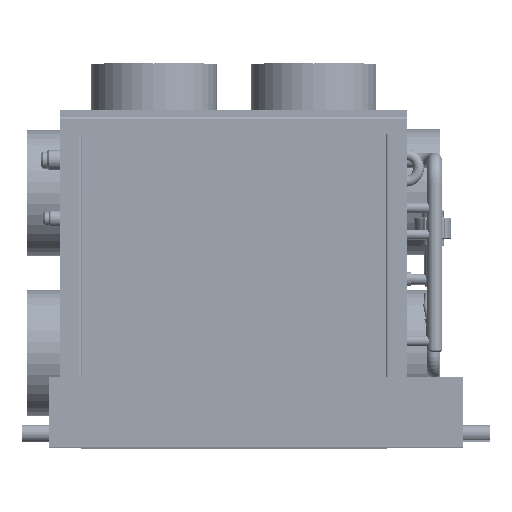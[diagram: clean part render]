
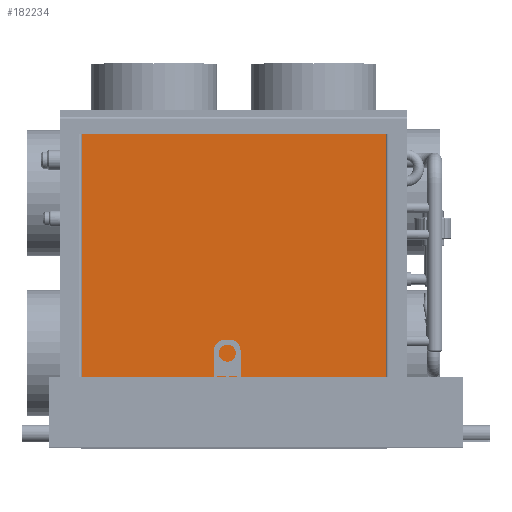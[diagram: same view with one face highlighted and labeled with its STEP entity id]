
A CAD part, top view. The second image highlights one B-rep face of the part: STEP entity #182234.
In plain terms, the highlighted planar face has unit normal (0, 0, 1) as drawn and (-1, 0, 0) by its records, which use the part's own axes.
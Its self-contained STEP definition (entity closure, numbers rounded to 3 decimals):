
#15830=FACE_OUTER_BOUND('',#26754,.T.);
#26754=EDGE_LOOP('',(#161679,#161680,#161681,#161682));
#50284=LINE('',#327582,#69904);
#50286=LINE('',#327586,#69906);
#50287=LINE('',#327588,#69907);
#50288=LINE('',#327589,#69908);
#69904=VECTOR('',#239657,1000.);
#69906=VECTOR('',#239661,1000.);
#69907=VECTOR('',#239662,1000.);
#69908=VECTOR('',#239663,1000.);
#86570=VERTEX_POINT('',#327579);
#86571=VERTEX_POINT('',#327581);
#86572=VERTEX_POINT('',#327585);
#86573=VERTEX_POINT('',#327587);
#111846=EDGE_CURVE('',#86571,#86570,#50284,.T.);
#111848=EDGE_CURVE('',#86570,#86572,#50286,.T.);
#111849=EDGE_CURVE('',#86573,#86572,#50287,.T.);
#111850=EDGE_CURVE('',#86571,#86573,#50288,.T.);
#161679=ORIENTED_EDGE('',*,*,#111848,.T.);
#161680=ORIENTED_EDGE('',*,*,#111849,.F.);
#161681=ORIENTED_EDGE('',*,*,#111850,.F.);
#161682=ORIENTED_EDGE('',*,*,#111846,.T.);
#172980=PLANE('',#195456);
#182234=ADVANCED_FACE('',(#15830),#172980,.F.);
#195456=AXIS2_PLACEMENT_3D('',#327584,#239659,#239660);
#239657=DIRECTION('',(0.,0.,-1.));
#239659=DIRECTION('center_axis',(1.,0.,0.));
#239660=DIRECTION('ref_axis',(0.,1.,0.));
#239661=DIRECTION('',(0.,-1.,0.));
#239662=DIRECTION('',(0.,0.,-1.));
#239663=DIRECTION('',(0.,-1.,0.));
#327579=CARTESIAN_POINT('',(-43.3,137.5,-142.5));
#327581=CARTESIAN_POINT('',(-43.3,137.5,142.5));
#327582=CARTESIAN_POINT('',(-43.3,137.5,142.5));
#327584=CARTESIAN_POINT('Origin',(-43.3,137.5,142.5));
#327585=CARTESIAN_POINT('',(-43.3,-137.5,-142.5));
#327586=CARTESIAN_POINT('',(-43.3,137.5,-142.5));
#327587=CARTESIAN_POINT('',(-43.3,-137.5,142.5));
#327588=CARTESIAN_POINT('',(-43.3,-137.5,142.5));
#327589=CARTESIAN_POINT('',(-43.3,137.5,142.5));
